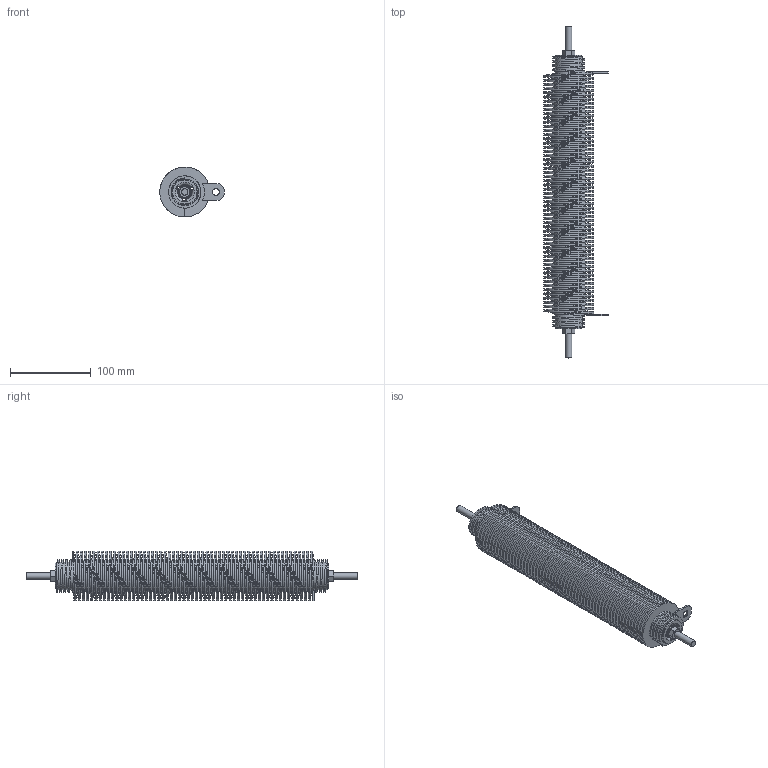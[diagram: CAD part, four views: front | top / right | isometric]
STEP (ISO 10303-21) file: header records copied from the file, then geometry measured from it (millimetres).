
FILE_DESCRIPTION(/* description */ (''),/* implementation_level */ '2;1');
FILE_NAME(/* name */ 'C:\_Vault\Dati\CATALOGO\RNT\RNT TUBO FILETTATO\RNT 900.stp',/* time_stamp */ '2023-05-16T14:55:55+02:00',/* author */ ('claudio'),/* organization */ ('Fairfild Srl'),/* preprocessor_version */ 'ST-DEVELOPER v18.1',/* originating_system */ 'Autodesk Inventor 2022',/* authorisation */ '');
FILE_SCHEMA (('AUTOMOTIVE_DESIGN { 1 0 10303 214 3 1 1 }'));
Length unit declared in the file: millimetre
Products named in the file (9): RNT 900; 70NT26D040336000SX; Spirale 2,2x13 Cost. Lucida Ns 53; 84NP70F8M500200000; 740070D04000000000; 06M008000A27500000; 600008000A25100032; 600008000A29200030; 28M008000A28800000
Assembly tree (13 placements, depth 2):
  RNT 900
    70NT26D040336000SX
    Spirale 2,2x13 Cost. Lucida Ns 53
    84NP70F8M500200000  x2
    740070D04000000000  x2
    06M008000A27500000
    600008000A25100032  x2
    600008000A29200030  x2
    28M008000A28800000  x2
Bounding box: 80.01 x 412 x 62 mm (x, y, z)
Volume: 478147.3 mm3; surface area: 397968.3 mm2
Topology: 13 solids, 13 shells, 396 faces, 1108 edges, 730 vertices
Faces by surface type: cylinder 294, plane 52, cone 28, torus 18, bspline 4
Full cylindrical faces by diameter (mm): 5 x6, 6.647 x2, 8 x1, 8.4 x2, 8.5 x2, 8.6 x2, 17 x2, 24 x1, 32.2 x2, 34 x64, 36 x57, 40 x64, 62 x57
Entity records: 33237 total; most frequent: CARTESIAN_POINT 25236, ORIENTED_EDGE 1876, DIRECTION 1186, EDGE_CURVE 938, VERTEX_POINT 621, B_SPLINE_CURVE_WITH_KNOTS 517, AXIS2_PLACEMENT_3D 442, EDGE_LOOP 341
